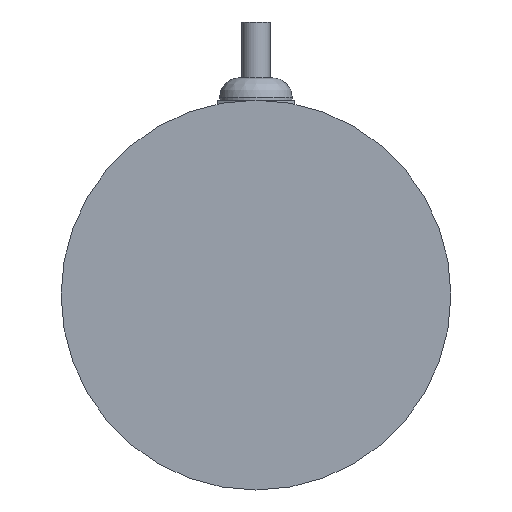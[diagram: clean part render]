
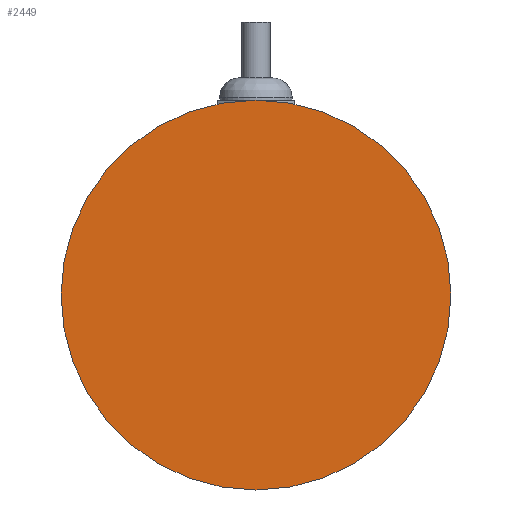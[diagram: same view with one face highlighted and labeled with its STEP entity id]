
A CAD part, front view. The second image highlights one B-rep face of the part: STEP entity #2449.
In plain terms, the highlighted planar face has unit normal (0, -1, 0).
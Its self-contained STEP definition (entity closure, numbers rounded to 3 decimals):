
#273=PLANE('',#2691);
#413=FACE_OUTER_BOUND('',#569,.T.);
#569=EDGE_LOOP('',(#2213,#2214));
#902=CIRCLE('',#2689,35.);
#903=CIRCLE('',#2690,35.);
#1143=VERTEX_POINT('',#11088);
#1144=VERTEX_POINT('',#11089);
#1503=EDGE_CURVE('',#1143,#1144,#902,.T.);
#1504=EDGE_CURVE('',#1144,#1143,#903,.T.);
#2213=ORIENTED_EDGE('',*,*,#1503,.T.);
#2214=ORIENTED_EDGE('',*,*,#1504,.T.);
#2449=ADVANCED_FACE('',(#413),#273,.T.);
#2689=AXIS2_PLACEMENT_3D('',#11090,#3241,#3242);
#2690=AXIS2_PLACEMENT_3D('',#11091,#3243,#3244);
#2691=AXIS2_PLACEMENT_3D('',#11093,#3246,#3247);
#3241=DIRECTION('center_axis',(0.,-1.,0.));
#3242=DIRECTION('ref_axis',(1.,0.,0.));
#3243=DIRECTION('center_axis',(0.,-1.,0.));
#3244=DIRECTION('ref_axis',(1.,0.,0.));
#3246=DIRECTION('center_axis',(0.,-1.,0.));
#3247=DIRECTION('ref_axis',(0.,0.,-1.));
#11088=CARTESIAN_POINT('',(35.,0.,0.));
#11089=CARTESIAN_POINT('',(-35.,0.,0.));
#11090=CARTESIAN_POINT('Origin',(0.,0.,0.));
#11091=CARTESIAN_POINT('Origin',(0.,0.,0.));
#11093=CARTESIAN_POINT('Origin',(0.,0.,0.));
